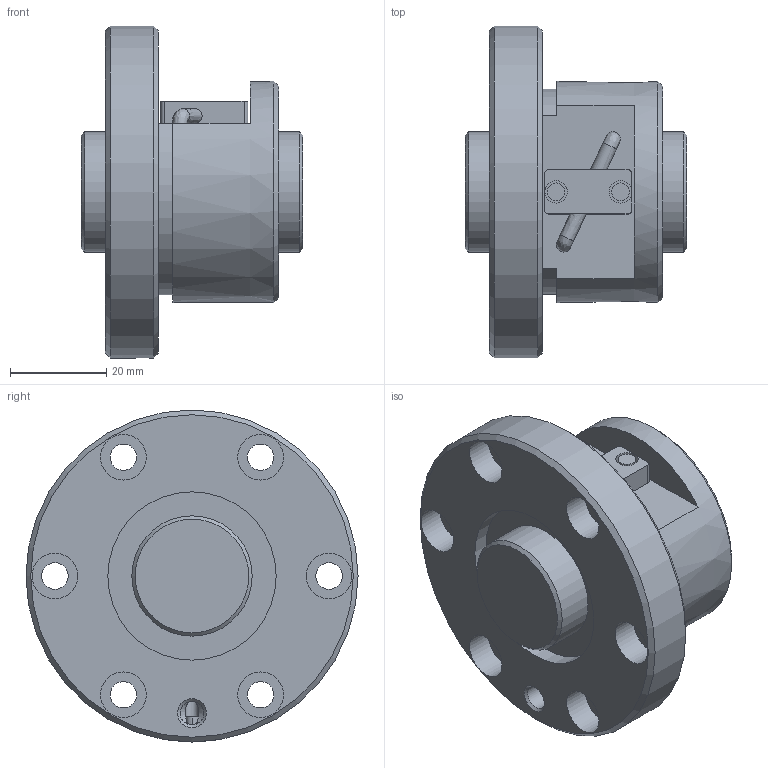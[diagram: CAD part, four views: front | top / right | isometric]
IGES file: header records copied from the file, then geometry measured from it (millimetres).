
Start section: Data from Parasolid IGES Translator 26.0.171, Copyright(c) 2006 Siemens PLM Software. All Rights Reserved.
Global section: file name: BNF2504V-2.5RRG1+46LC0_000_rev.igs; native system: By Siemens PLM Incorporated; preprocessor: XPlus GENERIC/IGES 26.0.171; author: Noname; organization: Noname; date: 20240806.072851; units: millimetre
Bounding box: 46 x 69 x 69 mm (x, y, z)
Surface area: 22331.9 mm2 (no closed solid volume)
Topology: 0 solids, 0 shells, 72 faces, 334 edges, 294 vertices
Faces by surface type: revolution 45, extrusion 27
